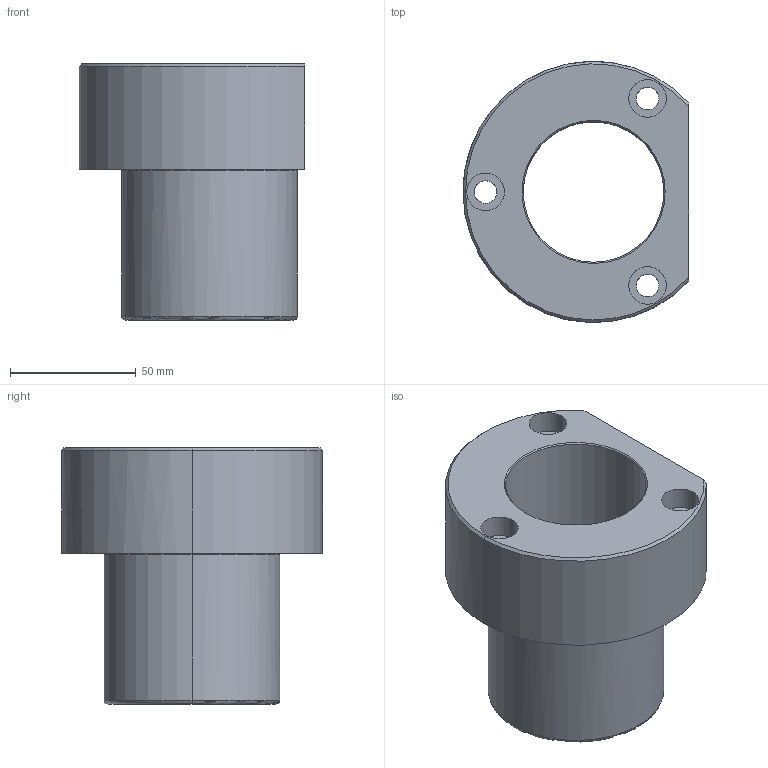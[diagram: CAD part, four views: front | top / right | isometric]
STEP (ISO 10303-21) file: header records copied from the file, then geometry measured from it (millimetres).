
FILE_DESCRIPTION(('CATIA V5 STEP Exchange'),'2;1');
FILE_NAME('C:\Users\Utente\Desktop\IO LAVORO\3D X SITO CF\X SITO\737\737-48.stp','2021-01-17T17:00:53+00:00',('none'),('none'),'CATIA Version 5 Release 20 GA (IN-10)','CATIA V5 STEP AP203','none');
FILE_SCHEMA(('CONFIG_CONTROL_DESIGN'));
Length unit declared in the file: millimetre
Products named in the file (1): 737-48
Bounding box: 90 x 103.95 x 102 mm (x, y, z)
Volume: 296244.7 mm3; surface area: 58902 mm2
Topology: 1 solids, 1 shells, 37 faces, 82 edges, 51 vertices
Faces by surface type: cylinder 18, plane 7, cone 6, torus 6
Entity records: 1250 total; most frequent: CARTESIAN_POINT 399, ORIENTED_EDGE 164, DIRECTION 144, AXIS2_PLACEMENT_3D 82, EDGE_CURVE 82, VERTEX_POINT 51, EDGE_LOOP 49, CIRCLE 44
